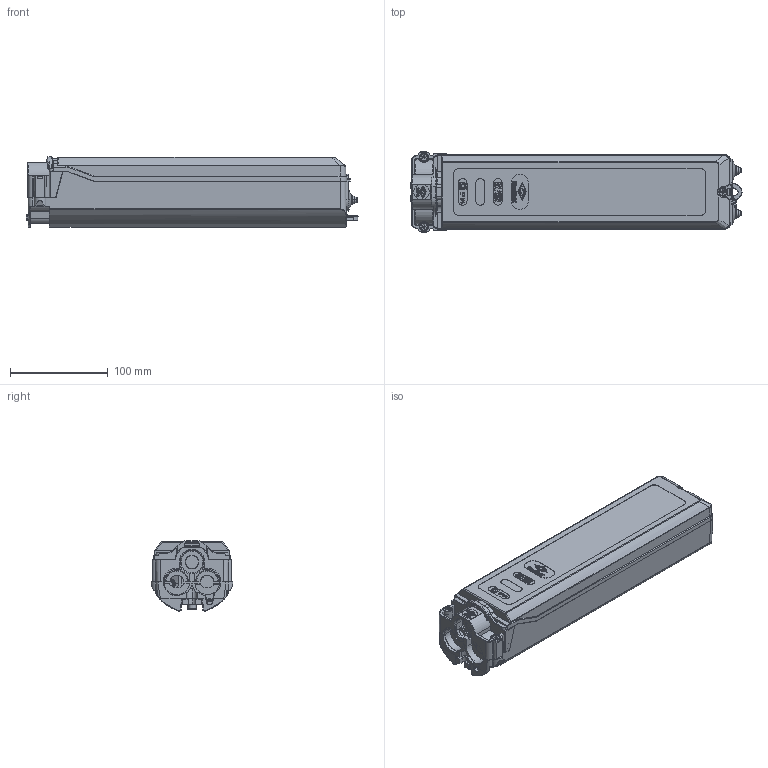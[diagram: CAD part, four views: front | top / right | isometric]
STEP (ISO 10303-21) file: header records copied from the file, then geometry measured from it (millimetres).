
FILE_DESCRIPTION (( 'STEP AP203' ), '1' );
FILE_NAME ('3D - HSW2520 Außenkontur.STEP', '2019-06-28T08:41:01', ( '' ), ( '' ), 'SwSTEP 2.0', 'SolidWorks 2013', '' );
FILE_SCHEMA (( 'CONFIG_CONTROL_DESIGN' ));
Products named in the file (1): 3D - HSW2520 Außenkontur
Bounding box: 339.54 x 83.5 x 71.86 mm (x, y, z)
Surface area: 123466.6 mm2 (no closed solid volume)
Topology: 0 solids, 26 shells, 1155 faces, 4144 edges, 2923 vertices
Faces by surface type: plane 532, cylinder 291, bspline 129, cone 99, torus 94, sphere 10
Entity records: 54004 total; most frequent: CARTESIAN_POINT 20772, ORIENTED_EDGE 6645, DIRECTION 6285, EDGE_CURVE 4138, VERTEX_POINT 2923, LINE 2417, VECTOR 2417, AXIS2_PLACEMENT_3D 1934
